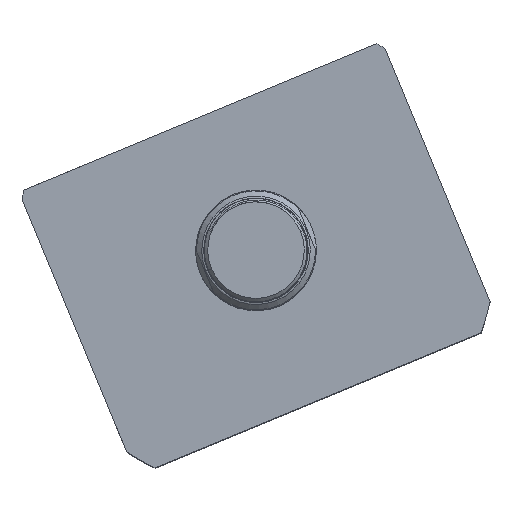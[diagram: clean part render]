
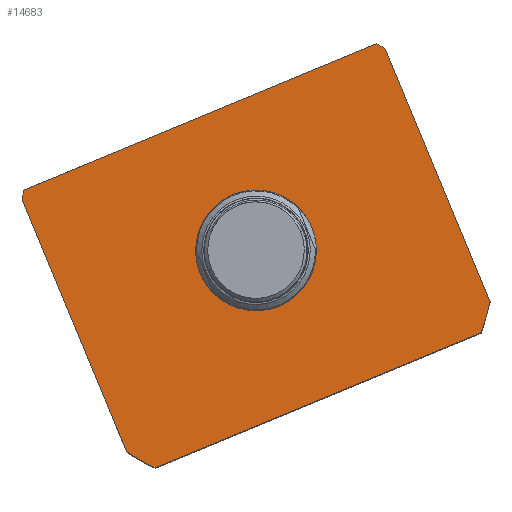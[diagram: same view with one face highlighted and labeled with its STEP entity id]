
A CAD part, top view. The second image highlights one B-rep face of the part: STEP entity #14683.
In plain terms, the highlighted planar face has unit normal (0, 0, 1) as drawn and (0, 0, -1) by its records, which use the part's own axes.
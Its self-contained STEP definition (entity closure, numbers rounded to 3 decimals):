
#336 = CARTESIAN_POINT ( 'NONE',  ( 57., -19.732, 0. ) ) ;
#345 = VERTEX_POINT ( 'NONE', #18729 ) ;
#751 = CARTESIAN_POINT ( 'NONE',  ( 55.374, -17.497, 0. ) ) ;
#759 = EDGE_CURVE ( 'NONE', #21224, #21392, #25575, .T. ) ;
#1248 = VECTOR ( 'NONE', #17426, 1000. ) ;
#1862 = CARTESIAN_POINT ( 'NONE',  ( 0., -59.497, 0. ) ) ;
#2392 = CARTESIAN_POINT ( 'NONE',  ( -57., -17.497, 0. ) ) ;
#3020 = EDGE_LOOP ( 'NONE', ( #18234, #24576 ) ) ;
#3432 = VERTEX_POINT ( 'NONE', #25969 ) ;
#3572 = CARTESIAN_POINT ( 'NONE',  ( 0., -59.497, 0. ) ) ;
#3615 = DIRECTION ( 'NONE',  ( 0., 0., 1. ) ) ;
#3698 = VERTEX_POINT ( 'NONE', #26874 ) ;
#3781 = VECTOR ( 'NONE', #25774, 1000. ) ;
#3898 = CARTESIAN_POINT ( 'NONE',  ( 51.198, -106.497, 0. ) ) ;
#3979 = DIRECTION ( 'NONE',  ( 1., 0., 0. ) ) ;
#4036 = DIRECTION ( 'NONE',  ( 1., 0., 0. ) ) ;
#4048 = CARTESIAN_POINT ( 'NONE',  ( -57., -106.497, 0. ) ) ;
#5321 = AXIS2_PLACEMENT_3D ( 'NONE', #20785, #16741, #4036 ) ;
#5387 = EDGE_CURVE ( 'NONE', #22909, #21224, #15039, .T. ) ;
#5627 = FACE_OUTER_BOUND ( 'NONE', #11686, .T. ) ;
#5702 = DIRECTION ( 'NONE',  ( 1., 0., 0. ) ) ;
#6204 = CIRCLE ( 'NONE', #20167, 69.5 ) ;
#6467 = ORIENTED_EDGE ( 'NONE', *, *, #26188, .F. ) ;
#6782 = EDGE_CURVE ( 'NONE', #24908, #345, #13282, .T. ) ;
#6788 = CIRCLE ( 'NONE', #11396, 17.5 ) ;
#6832 = LINE ( 'NONE', #4048, #23096 ) ;
#6858 = LINE ( 'NONE', #15302, #1248 ) ;
#7936 = CIRCLE ( 'NONE', #23758, 69.5 ) ;
#8025 = VERTEX_POINT ( 'NONE', #11163 ) ;
#8297 = DIRECTION ( 'NONE',  ( 1., 0., 0. ) ) ;
#8337 = VECTOR ( 'NONE', #26196, 1000. ) ;
#8466 = CARTESIAN_POINT ( 'NONE',  ( 0., -59.497, 0. ) ) ;
#9621 = EDGE_CURVE ( 'NONE', #345, #22909, #22167, .T. ) ;
#9813 = ORIENTED_EDGE ( 'NONE', *, *, #24738, .F. ) ;
#10399 = EDGE_CURVE ( 'NONE', #8025, #3698, #12595, .T. ) ;
#10602 = DIRECTION ( 'NONE',  ( 1., 0., 0. ) ) ;
#11163 = CARTESIAN_POINT ( 'NONE',  ( 17.5, -59.497, 0. ) ) ;
#11200 = CARTESIAN_POINT ( 'NONE',  ( 0., -59.497, 0. ) ) ;
#11396 = AXIS2_PLACEMENT_3D ( 'NONE', #11200, #26029, #13330 ) ;
#11686 = EDGE_LOOP ( 'NONE', ( #23803, #9813, #13543, #6467, #26113, #27258, #17963, #23460 ) ) ;
#12217 = DIRECTION ( 'NONE',  ( 0., 0., 1. ) ) ;
#12595 = CIRCLE ( 'NONE', #18292, 17.5 ) ;
#13282 = LINE ( 'NONE', #2392, #8337 ) ;
#13330 = DIRECTION ( 'NONE',  ( 1., 0., 0. ) ) ;
#13543 = ORIENTED_EDGE ( 'NONE', *, *, #26256, .F. ) ;
#14602 = PLANE ( 'NONE',  #5321 ) ;
#14683 = ADVANCED_FACE ( 'NONE', ( #17558, #5627 ), #14602, .F. ) ;
#15008 = EDGE_CURVE ( 'NONE', #15271, #24908, #7936, .T. ) ;
#15039 = LINE ( 'NONE', #23637, #3781 ) ;
#15271 = VERTEX_POINT ( 'NONE', #336 ) ;
#15302 = CARTESIAN_POINT ( 'NONE',  ( 57., -17.497, 0. ) ) ;
#16325 = CARTESIAN_POINT ( 'NONE',  ( 0., -59.497, 0. ) ) ;
#16348 = VERTEX_POINT ( 'NONE', #3898 ) ;
#16696 = DIRECTION ( 'NONE',  ( 0., 0., 1. ) ) ;
#16741 = DIRECTION ( 'NONE',  ( 0., 0., 1. ) ) ;
#17426 = DIRECTION ( 'NONE',  ( 0., 1., 0. ) ) ;
#17558 = FACE_BOUND ( 'NONE', #3020, .T. ) ;
#17963 = ORIENTED_EDGE ( 'NONE', *, *, #9621, .F. ) ;
#18234 = ORIENTED_EDGE ( 'NONE', *, *, #10399, .T. ) ;
#18292 = AXIS2_PLACEMENT_3D ( 'NONE', #24892, #12217, #27057 ) ;
#18372 = AXIS2_PLACEMENT_3D ( 'NONE', #3572, #18396, #5702 ) ;
#18396 = DIRECTION ( 'NONE',  ( 0., 0., 1. ) ) ;
#18430 = DIRECTION ( 'NONE',  ( 1., 0., 0. ) ) ;
#18729 = CARTESIAN_POINT ( 'NONE',  ( -55.374, -17.497, 0. ) ) ;
#20167 = AXIS2_PLACEMENT_3D ( 'NONE', #8466, #23284, #10602 ) ;
#20304 = EDGE_CURVE ( 'NONE', #3698, #8025, #6788, .T. ) ;
#20785 = CARTESIAN_POINT ( 'NONE',  ( 0., 0., 0. ) ) ;
#21224 = VERTEX_POINT ( 'NONE', #26748 ) ;
#21392 = VERTEX_POINT ( 'NONE', #22646 ) ;
#22167 = CIRCLE ( 'NONE', #27375, 69.5 ) ;
#22646 = CARTESIAN_POINT ( 'NONE',  ( -51.198, -106.497, 0. ) ) ;
#22909 = VERTEX_POINT ( 'NONE', #24996 ) ;
#23096 = VECTOR ( 'NONE', #8297, 1000. ) ;
#23284 = DIRECTION ( 'NONE',  ( 0., 0., 1. ) ) ;
#23460 = ORIENTED_EDGE ( 'NONE', *, *, #6782, .F. ) ;
#23637 = CARTESIAN_POINT ( 'NONE',  ( -57., -17.497, 0. ) ) ;
#23758 = AXIS2_PLACEMENT_3D ( 'NONE', #1862, #16696, #3979 ) ;
#23803 = ORIENTED_EDGE ( 'NONE', *, *, #15008, .F. ) ;
#24576 = ORIENTED_EDGE ( 'NONE', *, *, #20304, .T. ) ;
#24738 = EDGE_CURVE ( 'NONE', #3432, #15271, #6858, .T. ) ;
#24892 = CARTESIAN_POINT ( 'NONE',  ( 0., -59.497, 0. ) ) ;
#24908 = VERTEX_POINT ( 'NONE', #751 ) ;
#24996 = CARTESIAN_POINT ( 'NONE',  ( -57., -19.732, 0. ) ) ;
#25575 = CIRCLE ( 'NONE', #18372, 69.5 ) ;
#25774 = DIRECTION ( 'NONE',  ( 0., -1., 0. ) ) ;
#25969 = CARTESIAN_POINT ( 'NONE',  ( 57., -99.262, 0. ) ) ;
#26029 = DIRECTION ( 'NONE',  ( 0., 0., 1. ) ) ;
#26113 = ORIENTED_EDGE ( 'NONE', *, *, #759, .F. ) ;
#26188 = EDGE_CURVE ( 'NONE', #21392, #16348, #6832, .T. ) ;
#26196 = DIRECTION ( 'NONE',  ( -1., 0., 0. ) ) ;
#26256 = EDGE_CURVE ( 'NONE', #16348, #3432, #6204, .T. ) ;
#26748 = CARTESIAN_POINT ( 'NONE',  ( -57., -99.262, 0. ) ) ;
#26874 = CARTESIAN_POINT ( 'NONE',  ( -17.5, -59.497, 0. ) ) ;
#27057 = DIRECTION ( 'NONE',  ( 1., 0., 0. ) ) ;
#27258 = ORIENTED_EDGE ( 'NONE', *, *, #5387, .F. ) ;
#27375 = AXIS2_PLACEMENT_3D ( 'NONE', #16325, #3615, #18430 ) ;
